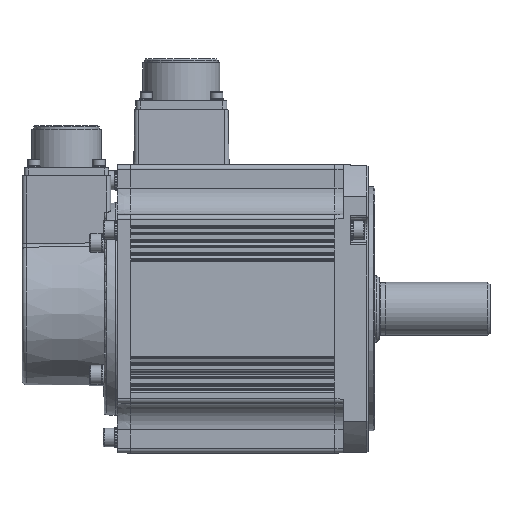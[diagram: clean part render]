
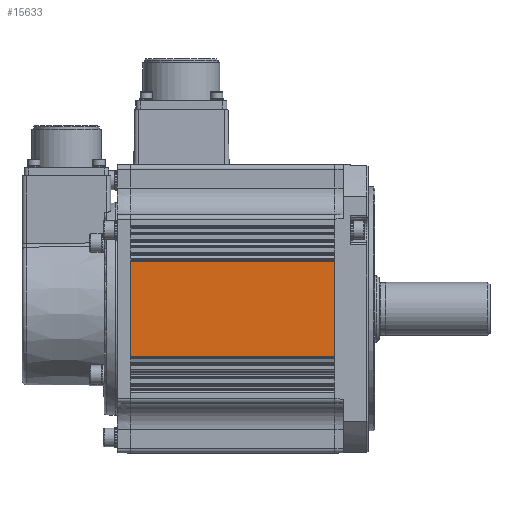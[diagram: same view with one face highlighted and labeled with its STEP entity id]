
A CAD part, left-side view. The second image highlights one B-rep face of the part: STEP entity #15633.
In plain terms, the highlighted planar face has unit normal (-1, 0, 0).
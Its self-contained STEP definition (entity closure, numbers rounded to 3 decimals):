
#10534=CARTESIAN_POINT('',(-65.,107.,21.534));
#10535=VERTEX_POINT('',#10534);
#10740=CARTESIAN_POINT('',(-65.,107.,-21.534));
#10741=VERTEX_POINT('',#10740);
#11428=CARTESIAN_POINT('',(-65.,107.,-21.534));
#11429=DIRECTION('',(0.0,0.0,1.0));
#11430=VECTOR('',#11429,43.067);
#11431=LINE('',#11428,#11430);
#11432=EDGE_CURVE('',#10741,#10535,#11431,.T.);
#15584=CARTESIAN_POINT('',(-65.,15.,21.534));
#15585=VERTEX_POINT('',#15584);
#15586=CARTESIAN_POINT('',(-65.,107.,21.534));
#15587=DIRECTION('',(0.0,-1.0,0.0));
#15588=VECTOR('',#15587,92.);
#15589=LINE('',#15586,#15588);
#15590=EDGE_CURVE('',#10535,#15585,#15589,.T.);
#15610=CARTESIAN_POINT('',(-65.,107.,-40.5));
#15611=DIRECTION('',(-1.0,0.0,0.0));
#15612=DIRECTION('',(0.0,0.0,1.0));
#15613=AXIS2_PLACEMENT_3D('',#15610,#15611,#15612);
#15614=PLANE('',#15613);
#15615=ORIENTED_EDGE('',*,*,#15590,.F.);
#15616=ORIENTED_EDGE('',*,*,#11432,.F.);
#15617=CARTESIAN_POINT('',(-65.,15.,-21.534));
#15618=VERTEX_POINT('',#15617);
#15619=CARTESIAN_POINT('',(-65.,107.,-21.534));
#15620=DIRECTION('',(0.0,-1.0,0.0));
#15621=VECTOR('',#15620,92.);
#15622=LINE('',#15619,#15621);
#15623=EDGE_CURVE('',#10741,#15618,#15622,.T.);
#15624=ORIENTED_EDGE('',*,*,#15623,.T.);
#15625=CARTESIAN_POINT('',(-65.,15.,21.534));
#15626=DIRECTION('',(0.0,0.0,-1.0));
#15627=VECTOR('',#15626,43.067);
#15628=LINE('',#15625,#15627);
#15629=EDGE_CURVE('',#15585,#15618,#15628,.T.);
#15630=ORIENTED_EDGE('',*,*,#15629,.F.);
#15631=EDGE_LOOP('',(#15615,#15616,#15624,#15630));
#15632=FACE_OUTER_BOUND('',#15631,.T.);
#15633=ADVANCED_FACE('',(#15632),#15614,.T.);
